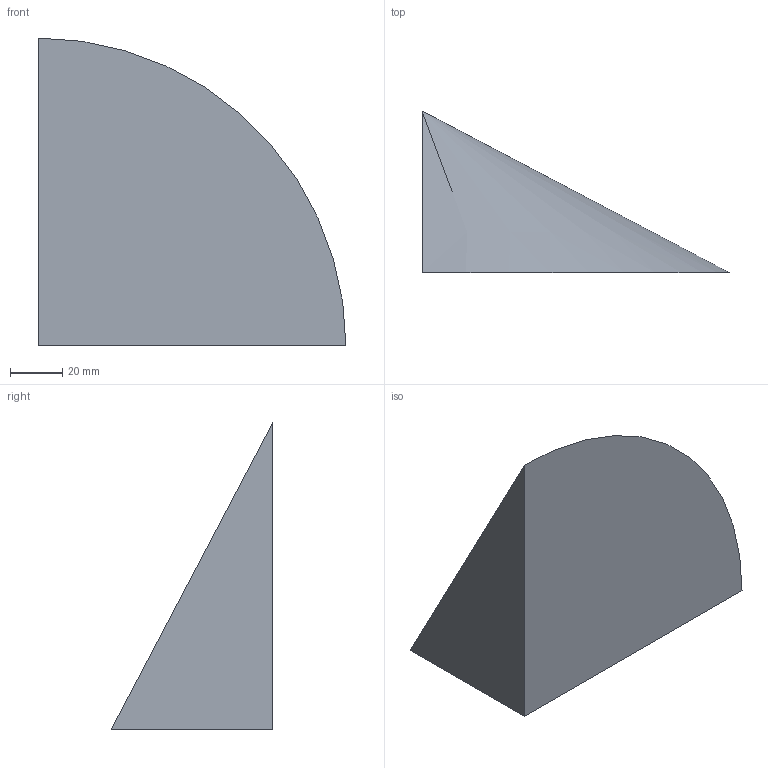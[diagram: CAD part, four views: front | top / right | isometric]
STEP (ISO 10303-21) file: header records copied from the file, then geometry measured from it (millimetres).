
FILE_DESCRIPTION(('CATIA V5 STEP Exchange'),'2;1');
FILE_NAME('C:\_Andres\UNIVERSIDAD\IQS\ASIGNATURAS\DAO\EXF\EXF-16172c\2inicio\Marinetto_Rohr_Ej07_v18.stp','2017-03-05T21:18:13+00:00',('none'),('none'),'CATIA Version 5-6 Release 2014 SP1 HF18','CATIA V5 STEP AP203','none');
FILE_SCHEMA(('CONFIG_CONTROL_DESIGN'));
Length unit declared in the file: millimetre
Products named in the file (1): Marinetto_Rohr_Ej07_v18
Bounding box: 118 x 62 x 118 mm (x, y, z)
Volume: 226008.3 mm3; surface area: 30605.4 mm2
Topology: 1 solids, 1 shells, 4 faces, 7 edges, 4 vertices
Faces by surface type: plane 3, cone 1
Entity records: 131 total; most frequent: CARTESIAN_POINT 15, DIRECTION 14, ORIENTED_EDGE 12, AXIS2_PLACEMENT_3D 6, EDGE_CURVE 6, VECTOR 5, LINE 5, ADVANCED_FACE 4
